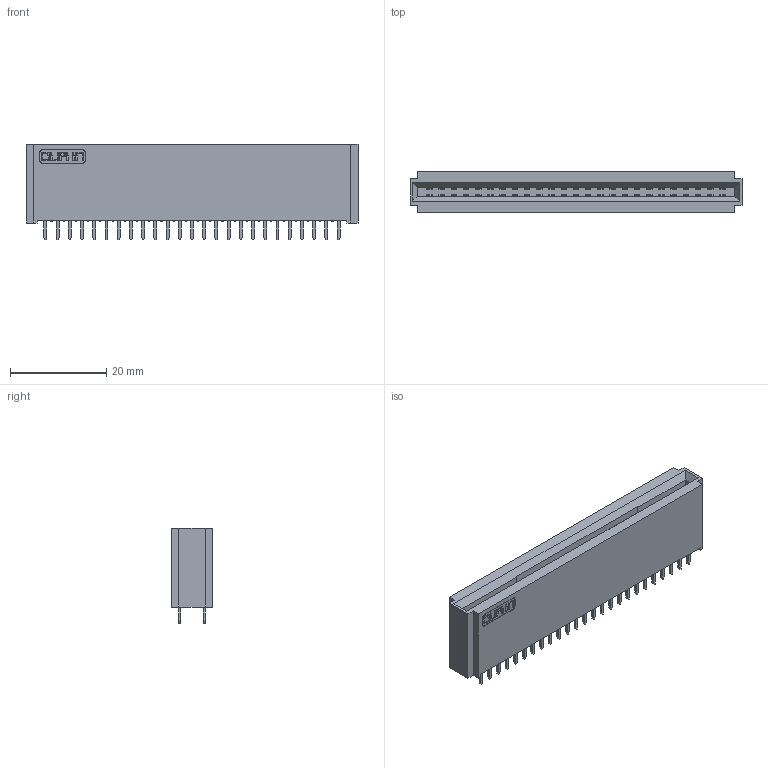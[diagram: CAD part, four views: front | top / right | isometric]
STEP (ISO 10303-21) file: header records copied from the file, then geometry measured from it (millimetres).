
FILE_DESCRIPTION (( 'STEP AP214' ), '1' );
FILE_NAME ('9393-F2P50N11ACB30DA.STEP', '2017-07-11T09:31:31', ( 'admin' ), ( '' ), 'SwSTEP 2.0', 'SolidWorks 2011', '' );
FILE_SCHEMA (( 'AUTOMOTIVE_DESIGN' ));
Length unit declared in the file: millimetre
Products named in the file (2): 9393-F2P50N11ACB30DA
Assembly tree (1 placements, depth 2):
  9393-F2P50N11ACB30DA
    9393-F2P50N11ACB30DA
Bounding box: 69.04 x 8.5 x 19.9 mm (x, y, z)
Volume: 7396.9 mm3; surface area: 8151.6 mm2
Topology: 101 solids, 101 shells, 1922 faces, 5027 edges, 3350 vertices
Faces by surface type: plane 1408, cylinder 514
Entity records: 59357 total; most frequent: CARTESIAN_POINT 11491, ORIENTED_EDGE 10054, DIRECTION 9115, EDGE_CURVE 5027, LINE 3999, VECTOR 3999, VERTEX_POINT 3350, AXIS2_PLACEMENT_3D 2558
